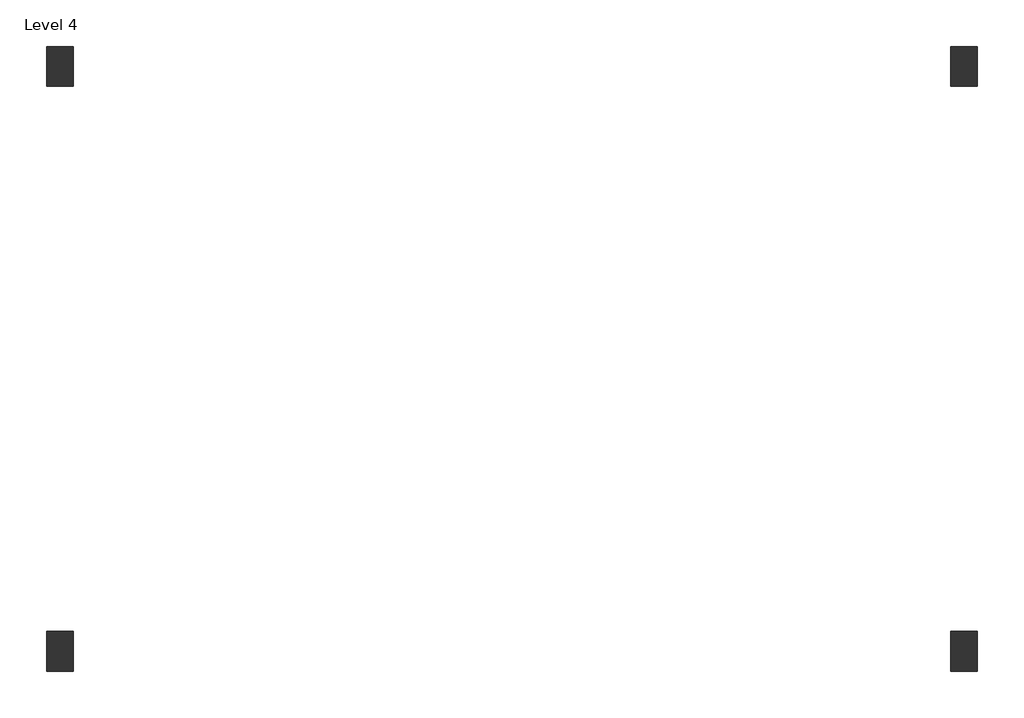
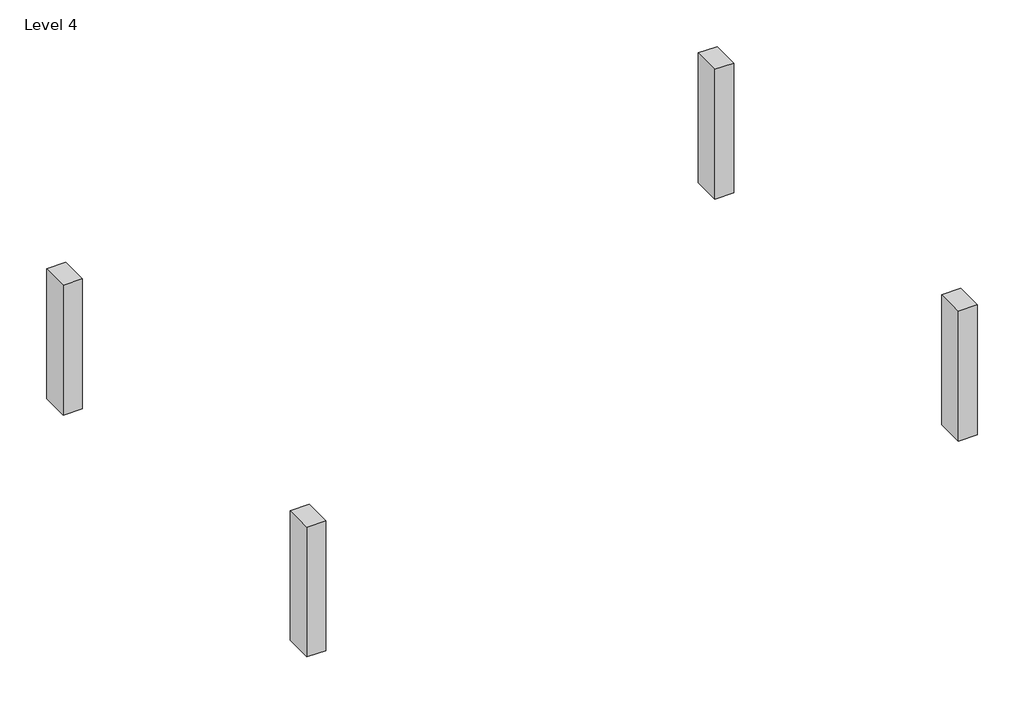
# One storey: 4 columns.
"""IFC4 building model written with IfcOpenShell, lengths in millimetres."""

from ifc_helpers import new_model, si_unit, frame, origin, place, context, project, spatial, polyline, outline, extrude, element, save

model = new_model("IFC4")

# Units and contexts
model_context = context("Model", 3, world=origin())
ifc_project = project(units=[si_unit("LENGTHUNIT", "METRE", prefix="MILLI")], contexts=[model_context])

# Site, building, storey
site = spatial("IfcSite", under=ifc_project)
building = spatial("IfcBuilding", under=site)
storey = spatial("IfcBuildingStorey", under=building, Name="Level 4", Elevation=-2300.0)

# Columns
placement = place(None, origin())
element("IfcColumn", 1, ObjectType="混凝土-矩形-柱 : 300 x 450 mm", at=placement, inside=storey, context=model_context, shape_type="SweptSolid", body=[
    extrude(outline(polyline([(-10024.3047465, 1981.3483646), (-10024.3047465, 1531.3483646), (-10324.3047465, 1531.3483646), (-10324.3047465, 1981.3483646), (-10024.3047465, 1981.3483646)])), frame((0.0, 0.0, -2300.0), z_axis=(0.0, 0.0, 1.0), x_axis=(1.0, 0.0, 0.0)), (0.0, 0.0, 1.0), 2150.0),
])
element("IfcColumn", 2, ObjectType="混凝土-矩形-柱 : 300 x 450 mm", at=placement, inside=storey, context=model_context, shape_type="SweptSolid", body=[
    extrude(outline(polyline([(175.6952535, 1981.3483646), (175.6952535, 1531.3483646), (-124.3047465, 1531.3483646), (-124.3047465, 1981.3483646), (175.6952535, 1981.3483646)])), frame((0.0, 0.0, -2300.0), z_axis=(0.0, 0.0, 1.0), x_axis=(1.0, 0.0, 0.0)), (0.0, 0.0, 1.0), 2150.0),
])
element("IfcColumn", 3, ObjectType="混凝土-矩形-柱 : 300 x 450 mm", at=placement, inside=storey, context=model_context, shape_type="SweptSolid", body=[
    extrude(outline(polyline([(-10024.3047465, -4618.6516354), (-10024.3047465, -5068.6516354), (-10324.3047465, -5068.6516354), (-10324.3047465, -4618.6516354), (-10024.3047465, -4618.6516354)])), frame((0.0, 0.0, -2300.0), z_axis=(0.0, 0.0, 1.0), x_axis=(1.0, 0.0, 0.0)), (0.0, 0.0, 1.0), 2150.0),
])
element("IfcColumn", 4, ObjectType="混凝土-矩形-柱 : 300 x 450 mm", at=placement, inside=storey, context=model_context, shape_type="SweptSolid", body=[
    extrude(outline(polyline([(175.6952535, -4618.6516354), (175.6952535, -5068.6516354), (-124.3047465, -5068.6516354), (-124.3047465, -4618.6516354), (175.6952535, -4618.6516354)])), frame((0.0, 0.0, -2300.0), z_axis=(0.0, 0.0, 1.0), x_axis=(1.0, 0.0, 0.0)), (0.0, 0.0, 1.0), 2150.0),
])

save(model, "model.ifc")
